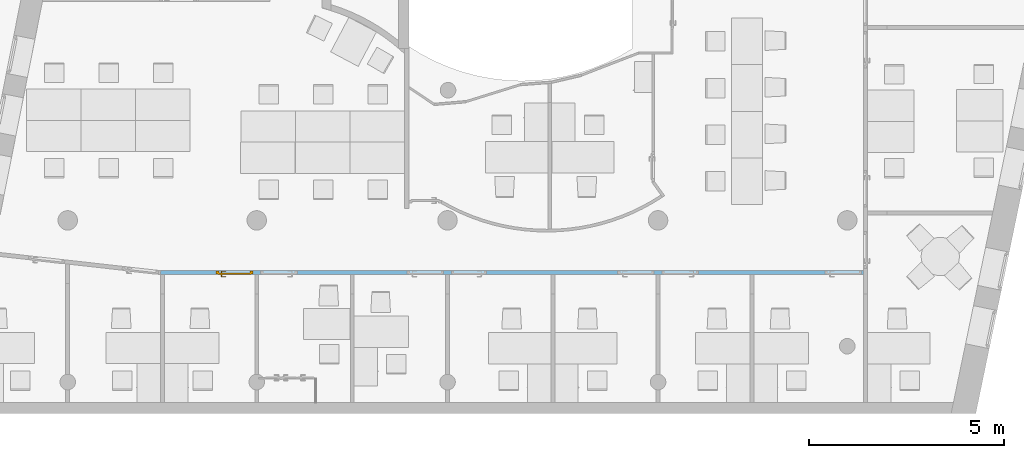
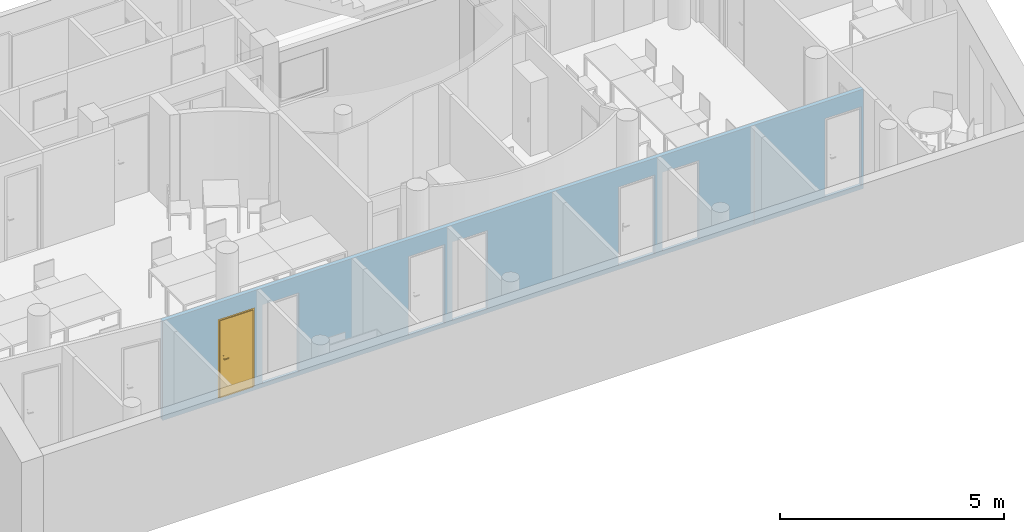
"""IFC4 building model written with IfcOpenShell, lengths in metres."""

from ifc_helpers import new_model, entity, si_unit, converted_unit, derived_unit, frame, origin, origin_with_axes, place, context, subcontext, project, spatial, polyline, outline, extrude, faceted_brep, source, transform, mapped, material, layer, layer_set, layer_usage, element, fill, save


model = new_model("IFC4")

# Units and contexts
model_context = context("Model", 3, precision=1e-05, world=origin())
body_context = subcontext(model_context, "Body", "Model", "MODEL_VIEW")
ifc_project = project(units=[si_unit("LENGTHUNIT", "METRE"), si_unit("AREAUNIT", "SQUARE_METRE"), si_unit("VOLUMEUNIT", "CUBIC_METRE"), si_unit("MASSUNIT", "GRAM", prefix="KILO"), converted_unit("PLANEANGLEUNIT", "DEGREE", entity("IfcPlaneAngleMeasure", 0.0174532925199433), si_unit("PLANEANGLEUNIT", "RADIAN"), dimensions=[0, 0, 0, 0, 0, 0, 0]), derived_unit("THERMALTRANSMITTANCEUNIT", [(si_unit("POWERUNIT", "WATT"), 1), (si_unit("THERMODYNAMICTEMPERATUREUNIT", "KELVIN"), -1), (si_unit("LENGTHUNIT", "METRE"), -2)]), derived_unit("VOLUMETRICFLOWRATEUNIT", [(si_unit("LENGTHUNIT", "METRE"), 3), (converted_unit("TIMEUNIT", "hour", entity("IfcTimeMeasure", 3600.0), si_unit("TIMEUNIT", "SECOND"), dimensions=[0, 0, 1, 0, 0, 0, 0]), -1), (si_unit("LENGTHUNIT", "METRE"), -1)])], contexts=[model_context])

# Building, storeys
building_placement = place(None, origin())
building = spatial("IfcBuilding", under=ifc_project, at=building_placement, Name="HABITATGE PLURIFAMILIAR", CompositionType="ELEMENT")
storey_1_placement = place(building_placement, frame((0.0, 0.0, 6.25)))
storey_1 = spatial("IfcBuildingStorey", under=building, at=storey_1_placement, Name="PLANTA PRIMERA", CompositionType="ELEMENT", Elevation=6.25)
storey_2_placement = place(storey_1_placement, frame((0.0, 0.0, 3.35)))
storey_2 = spatial("IfcBuildingStorey", under=storey_1, at=storey_2_placement, Name="NOU", CompositionType="PARTIAL")

# Wall, openings, door
ifc_material = material()
ifc_layer = layer(ifc_material, 0.1)
ifc_layer_set = layer_set([ifc_layer])
ifc_layer_usage = layer_usage(ifc_layer_set, "AXIS2", "POSITIVE", 0.0)
wall_placement = place(storey_2_placement, frame((421.406984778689, 16.5094598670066, -3.45), z_axis=(0.0, 0.0, 1.0), x_axis=(-1.0, 0.0, 0.0)))
wall = element("IfcWall", 1, at=wall_placement, inside=storey_2, material=ifc_layer_usage, Name="Mampara P1", context=body_context, shape_type="SweptSolid", body=[
    extrude(outline(polyline([(-18.0374183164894, -0.1), (-0.00561454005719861, -0.1), (0.0, 0.0), (-15.1276972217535, 0.0), (-15.1276972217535, -0.000949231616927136), (-15.2276972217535, -0.000949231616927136), (-15.2276972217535, 0.0), (-18.0374183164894, 0.0), (-18.0374183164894, -0.1)])), frame((18.0374183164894, 0.1, 0.0), z_axis=(0.0, 0.0, 1.0), x_axis=(1.0, 0.0, 0.0)), (0.0, 0.0, 1.0), 2.71),
])
opening_1_placement = place(wall_placement, frame((0.99, 0.1, 0.1), z_axis=(0.0, -1.0, 0.0), x_axis=(0.0, 0.0, 1.0)))
element("IfcOpeningElement", 2, at=opening_1_placement, cuts=wall, Name="Vano de puerta P1", ObjectType="Opening", context=body_context, shape_type="SweptSolid", body=[
    extrude(outline(polyline([(2.15, 0.94), (2.15, 0.0), (0.0, 0.0), (0.0, 0.94), (2.15, 0.94)])), origin_with_axes(), (0.0, 0.0, 1.0), 0.1),
])
opening_2_placement = place(wall_placement, frame((4.22887875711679, 0.0, 0.1), z_axis=(0.0, 1.0, 0.0), x_axis=(0.0, 0.0, 1.0)))
element("IfcOpeningElement", 3, at=opening_2_placement, cuts=wall, Name="Vano de puerta P1", ObjectType="Opening", context=body_context, shape_type="SweptSolid", body=[
    extrude(outline(polyline([(2.15, 0.94), (2.15, 0.0), (0.0, 0.0), (0.0, 0.94), (2.15, 0.94)])), origin_with_axes(), (0.0, 0.0, 1.0), 0.1),
])
opening_3_placement = place(wall_placement, frame((5.36887875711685, 0.0, 0.1), z_axis=(0.0, 1.0, 0.0), x_axis=(0.0, 0.0, 1.0)))
element("IfcOpeningElement", 4, at=opening_3_placement, cuts=wall, Name="Vano de puerta P1", ObjectType="Opening", context=body_context, shape_type="SweptSolid", body=[
    extrude(outline(polyline([(2.15, 0.94), (2.15, 0.0), (0.0, 0.0), (0.0, 0.94), (2.15, 0.94)])), origin_with_axes(), (0.0, 0.0, 1.0), 0.1),
])
opening_4_placement = place(wall_placement, frame((9.6709060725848, 0.0, 0.1), z_axis=(0.0, 1.0, 0.0), x_axis=(0.0, 0.0, 1.0)))
element("IfcOpeningElement", 5, at=opening_4_placement, cuts=wall, Name="Vano de puerta P1", ObjectType="Opening", context=body_context, shape_type="SweptSolid", body=[
    extrude(outline(polyline([(2.15, 0.899999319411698), (2.15, 0.0), (0.0, 0.0), (0.0, 0.899999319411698), (2.15, 0.899999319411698)])), origin_with_axes(), (0.0, 0.0, 1.0), 0.1),
])
opening_5_placement = place(wall_placement, frame((10.7720101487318, 0.0, 0.1), z_axis=(0.0, 1.0, 0.0), x_axis=(0.0, 0.0, 1.0)))
element("IfcOpeningElement", 6, at=opening_5_placement, cuts=wall, Name="Vano de puerta P1", ObjectType="Opening", context=body_context, shape_type="SweptSolid", body=[
    extrude(outline(polyline([(2.15, 0.94), (2.15, 0.0), (0.0, 0.0), (0.0, 0.94), (2.15, 0.94)])), origin_with_axes(), (0.0, 0.0, 1.0), 0.1),
])
opening_6_placement = place(wall_placement, frame((14.5286824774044, 0.0, 0.1), z_axis=(0.0, 1.0, 0.0), x_axis=(0.0, 0.0, 1.0)))
element("IfcOpeningElement", 7, at=opening_6_placement, cuts=wall, Name="Vano de puerta P1", ObjectType="Opening", context=body_context, shape_type="SweptSolid", body=[
    extrude(outline(polyline([(2.15, 0.94), (2.15, 0.0), (0.0, 0.0), (0.0, 0.94), (2.15, 0.94)])), origin_with_axes(), (0.0, 0.0, 1.0), 0.1),
])
opening_7_placement = place(wall_placement, frame((15.6697872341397, 0.0, 0.1), z_axis=(0.0, 1.0, 0.0), x_axis=(0.0, 0.0, 1.0)))
opening_7 = element("IfcOpeningElement", 8, at=opening_7_placement, cuts=wall, Name="Vano de puerta P1", ObjectType="Opening", context=body_context, shape_type="SweptSolid", body=[
    extrude(outline(polyline([(2.15, 0.94), (2.15, 0.0), (0.0, 0.0), (0.0, 0.94), (2.15, 0.94)])), origin_with_axes(), (0.0, 0.0, 1.0), 0.1),
])
shared_shape = source(origin_with_axes(), body_context, "Body", "Brep", [
    faceted_brep([(0.94, 0.07, 2.15), (0.87, 0.07, 2.15), (0.87, 0.07, 0.0), (0.94, 0.07, 0.0), (0.94, 0.0, 0.0), (0.87, 0.0, 0.0), (0.87, 0.0, 2.15), (0.94, 0.0, 2.15)], [[[0, 1, 2, 3]], [[4, 5, 6, 7]], [[3, 4, 7, 0]], [[2, 5, 4, 3]], [[1, 6, 5, 2]], [[0, 7, 6, 1]]], orient=[[False], [False], [False], [False], [False], [False]]),
    faceted_brep([(0.07, 0.07, 2.15), (0.0, 0.07, 2.15), (0.0, 0.07, 0.0), (0.07, 0.07, 0.0), (0.07, 0.0, 0.0), (0.0, 0.0, 0.0), (0.0, 0.0, 2.15), (0.07, 0.0, 2.15)], [[[0, 1, 2, 3]], [[4, 5, 6, 7]], [[3, 4, 7, 0]], [[2, 5, 4, 3]], [[1, 6, 5, 2]], [[0, 7, 6, 1]]], orient=[[False], [False], [False], [False], [False], [False]]),
    faceted_brep([(0.87, 0.07, 2.15), (0.07, 0.07, 2.15), (0.07, 0.07, 2.08), (0.87, 0.07, 2.08), (0.87, 0.0, 2.08), (0.07, 0.0, 2.08), (0.07, 0.0, 2.15), (0.87, 0.0, 2.15)], [[[0, 1, 2, 3]], [[4, 5, 6, 7]], [[3, 4, 7, 0]], [[2, 5, 4, 3]], [[1, 6, 5, 2]], [[0, 7, 6, 1]]], orient=[[False], [False], [False], [False], [False], [False]]),
    faceted_brep([(0.89, 0.09, 2.1), (0.05, 0.09, 2.1), (0.05, 0.09, 0.0), (0.89, 0.09, 0.0), (0.89, 0.05, 0.0), (0.05, 0.05, 0.0), (0.05, 0.05, 2.1), (0.89, 0.05, 2.1)], [[[0, 1, 2, 3]], [[4, 5, 6, 7]], [[3, 4, 7, 0]], [[2, 5, 4, 3]], [[1, 6, 5, 2]], [[0, 7, 6, 1]]], orient=[[False], [False], [False], [False], [False], [False]]),
    faceted_brep([(0.83, 0.05, 1.125), (0.78, 0.05, 1.125), (0.78, 0.05, 0.91), (0.83, 0.05, 0.91), (0.83, 0.04, 0.91), (0.78, 0.04, 0.91), (0.78, 0.04, 1.125), (0.83, 0.04, 1.125)], [[[0, 1, 2, 3]], [[4, 5, 6, 7]], [[3, 4, 7, 0]], [[2, 5, 4, 3]], [[1, 6, 5, 2]], [[0, 7, 6, 1]]], orient=[[False], [False], [False], [False], [False], [False]]),
    faceted_brep([(0.805, 0.04, 1.06), (0.8, 0.04, 1.05866025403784), (0.796339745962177, 0.04, 1.055), (0.795, 0.04, 1.05), (0.796339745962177, 0.04, 1.045), (0.8, 0.04, 1.04133974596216), (0.805, 0.04, 1.04), (0.81, 0.04, 1.04133974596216), (0.813660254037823, 0.04, 1.045), (0.815, 0.04, 1.05), (0.813660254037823, 0.04, 1.055), (0.81, 0.04, 1.05866025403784), (0.81, -0.005, 1.05866025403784), (0.805, 0.0, 1.06), (0.813660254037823, -0.00866025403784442, 1.055), (0.815, -0.01, 1.05), (0.813660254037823, -0.00866025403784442, 1.045), (0.81, -0.005, 1.04133974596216), (0.805, 0.0, 1.04), (0.8, 0.005, 1.04133974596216), (0.796339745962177, 0.00866025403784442, 1.045), (0.795, 0.01, 1.05), (0.796339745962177, 0.00866025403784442, 1.055), (0.8, 0.005, 1.05866025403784), (0.69, 0.0, 1.06), (0.69, -0.005, 1.05866025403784), (0.69, -0.00866025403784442, 1.055), (0.69, -0.01, 1.05), (0.69, -0.00866025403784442, 1.045), (0.69, -0.005, 1.04133974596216), (0.69, 0.0, 1.04), (0.69, 0.005, 1.04133974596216), (0.69, 0.00866025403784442, 1.045), (0.69, 0.01, 1.05), (0.69, 0.00866025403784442, 1.055), (0.69, 0.005, 1.05866025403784)], [[[0, 1, 2, 3, 4, 5, 6, 7, 8, 9, 10, 11]], [[0, 11, 12, 13]], [[11, 10, 14, 12]], [[10, 9, 15, 14]], [[9, 8, 16, 15]], [[8, 7, 17, 16]], [[7, 6, 18, 17]], [[6, 5, 19, 18]], [[5, 4, 20, 19]], [[4, 3, 21, 20]], [[3, 2, 22, 21]], [[2, 1, 23, 22]], [[1, 0, 13, 23]], [[24, 25, 26, 27, 28, 29, 30, 31, 32, 33, 34, 35]], [[13, 12, 25, 24]], [[12, 14, 26, 25]], [[14, 15, 27, 26]], [[15, 16, 28, 27]], [[16, 17, 29, 28]], [[17, 18, 30, 29]], [[18, 19, 31, 30]], [[19, 20, 32, 31]], [[20, 21, 33, 32]], [[21, 22, 34, 33]], [[22, 23, 35, 34]], [[23, 13, 24, 35]]], orient=[[False], [False], [False], [False], [False], [False], [False], [False], [False], [False], [False], [False], [False], [False], [False], [False], [False], [False], [False], [False], [False], [False], [False], [False], [False], [False]]),
    faceted_brep([(0.83, 0.09, 1.125), (0.83, 0.09, 0.91), (0.78, 0.09, 0.91), (0.78, 0.09, 1.125), (0.83, 0.1, 0.91), (0.83, 0.1, 1.125), (0.78, 0.1, 1.125), (0.78, 0.1, 0.91)], [[[0, 1, 2, 3]], [[4, 5, 6, 7]], [[1, 0, 5, 4]], [[2, 1, 4, 7]], [[3, 2, 7, 6]], [[0, 3, 6, 5]]], orient=[[False], [False], [False], [False], [False], [False]]),
    faceted_brep([(0.805, 0.1, 1.06), (0.81, 0.1, 1.05866025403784), (0.813660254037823, 0.1, 1.055), (0.815, 0.1, 1.05), (0.813660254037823, 0.1, 1.045), (0.81, 0.1, 1.04133974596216), (0.805, 0.1, 1.04), (0.8, 0.1, 1.04133974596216), (0.796339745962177, 0.1, 1.045), (0.795, 0.1, 1.05), (0.796339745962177, 0.1, 1.055), (0.8, 0.1, 1.05866025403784), (0.805, 0.14, 1.06), (0.81, 0.145, 1.05866025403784), (0.813660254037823, 0.148660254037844, 1.055), (0.815, 0.15, 1.05), (0.813660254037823, 0.148660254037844, 1.045), (0.81, 0.145, 1.04133974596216), (0.805, 0.14, 1.04), (0.8, 0.135, 1.04133974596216), (0.796339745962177, 0.131339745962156, 1.045), (0.795, 0.13, 1.05), (0.796339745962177, 0.131339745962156, 1.055), (0.8, 0.135, 1.05866025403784), (0.69, 0.14, 1.06), (0.69, 0.135, 1.05866025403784), (0.69, 0.131339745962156, 1.055), (0.69, 0.13, 1.05), (0.69, 0.131339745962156, 1.045), (0.69, 0.135, 1.04133974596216), (0.69, 0.14, 1.04), (0.69, 0.145, 1.04133974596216), (0.69, 0.148660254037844, 1.045), (0.69, 0.15, 1.05), (0.69, 0.148660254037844, 1.055), (0.69, 0.145, 1.05866025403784)], [[[0, 1, 2, 3, 4, 5, 6, 7, 8, 9, 10, 11]], [[0, 12, 13, 1]], [[1, 13, 14, 2]], [[2, 14, 15, 3]], [[3, 15, 16, 4]], [[4, 16, 17, 5]], [[5, 17, 18, 6]], [[6, 18, 19, 7]], [[7, 19, 20, 8]], [[8, 20, 21, 9]], [[9, 21, 22, 10]], [[10, 22, 23, 11]], [[11, 23, 12, 0]], [[24, 25, 26, 27, 28, 29, 30, 31, 32, 33, 34, 35]], [[12, 24, 35, 13]], [[13, 35, 34, 14]], [[14, 34, 33, 15]], [[15, 33, 32, 16]], [[16, 32, 31, 17]], [[17, 31, 30, 18]], [[18, 30, 29, 19]], [[19, 29, 28, 20]], [[20, 28, 27, 21]], [[21, 27, 26, 22]], [[22, 26, 25, 23]], [[23, 25, 24, 12]]], orient=[[False], [False], [False], [False], [False], [False], [False], [False], [False], [False], [False], [False], [False], [False], [False], [False], [False], [False], [False], [False], [False], [False], [False], [False], [False], [False]]),
])
door_placement = place(opening_7_placement, frame((0.0, 0.0, 0.015), z_axis=(1.0, 0.0, 0.0), x_axis=(0.0, 1.0, 0.0)))
door = element("IfcDoor", 9, at=door_placement, inside=storey_2, Name="Porta P1", OperationType="USERDEFINED", OverallHeight=2.15, OverallWidth=0.94, PredefinedType="DOOR", context=body_context, shape_type="MappedRepresentation", body=[
    mapped(shared_shape, transform((0.0, 0.0, 0.0), x_axis=(1.0, 0.0, 0.0), y_axis=(0.0, 1.0, 0.0), z_axis=(0.0, 0.0, 1.0), scale=1.0)),
])
fill(opening_7, door)

save(model, "model.ifc")
